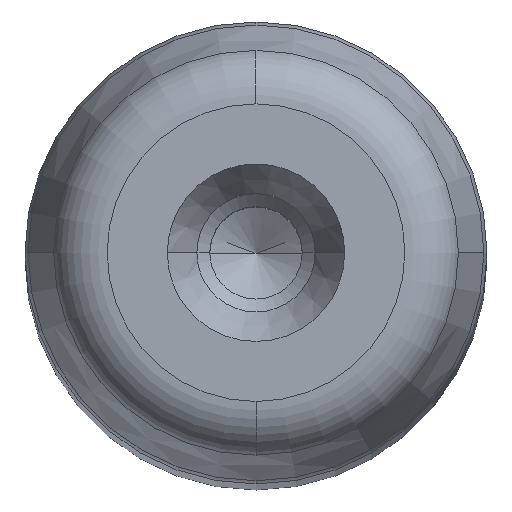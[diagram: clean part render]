
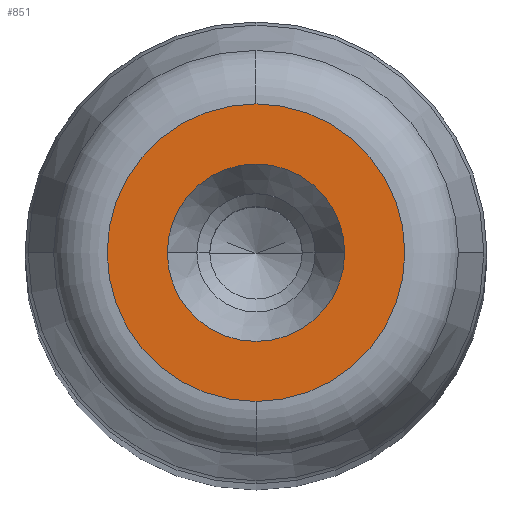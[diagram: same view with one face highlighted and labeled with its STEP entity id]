
A CAD part, top view. The second image highlights one B-rep face of the part: STEP entity #851.
In plain terms, the highlighted planar face has unit normal (0, 0, 1) as drawn and (0, 1, 0) by its records, which use the part's own axes.
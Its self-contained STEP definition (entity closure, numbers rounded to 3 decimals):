
#281=CARTESIAN_POINT('',(4.8,200.0,0.0));
#282=VERTEX_POINT('',#281);
#289=CARTESIAN_POINT('',(-4.8,200.0,0.));
#290=VERTEX_POINT('',#289);
#291=CARTESIAN_POINT('',(0.0,200.0,0.0));
#292=DIRECTION('',(0.0,1.0,0.0));
#293=DIRECTION('',(1.0,0.0,0.0));
#294=AXIS2_PLACEMENT_3D('',#291,#292,#293);
#295=CIRCLE('',#294,4.8);
#296=EDGE_CURVE('',#282,#290,#295,.T.);
#313=CARTESIAN_POINT('',(0.0,200.,8.054));
#314=VERTEX_POINT('',#313);
#324=CARTESIAN_POINT('',(0.,200.,-8.054));
#325=VERTEX_POINT('',#324);
#326=CARTESIAN_POINT('',(0.0,200.,0.0));
#327=DIRECTION('',(0.0,1.0,0.0));
#328=DIRECTION('',(1.0,0.0,0.0));
#329=AXIS2_PLACEMENT_3D('',#326,#327,#328);
#330=CIRCLE('',#329,8.054);
#331=EDGE_CURVE('',#325,#314,#330,.T.);
#812=CARTESIAN_POINT('',(8.054,200.,0.0));
#813=VERTEX_POINT('',#812);
#814=CARTESIAN_POINT('',(0.0,200.,0.0));
#815=DIRECTION('',(0.0,1.0,0.0));
#816=DIRECTION('',(1.0,0.0,0.0));
#817=AXIS2_PLACEMENT_3D('',#814,#815,#816);
#818=CIRCLE('',#817,8.054);
#819=EDGE_CURVE('',#813,#325,#818,.T.);
#821=CARTESIAN_POINT('',(0.0,200.,0.0));
#822=DIRECTION('',(0.0,1.0,0.0));
#823=DIRECTION('',(1.0,0.0,0.0));
#824=AXIS2_PLACEMENT_3D('',#821,#822,#823);
#825=CIRCLE('',#824,8.054);
#826=EDGE_CURVE('',#314,#813,#825,.T.);
#831=CARTESIAN_POINT('',(-8.86,200.0,-8.86));
#832=DIRECTION('',(0.0,1.0,0.0));
#833=DIRECTION('',(0.0,0.0,1.0));
#834=AXIS2_PLACEMENT_3D('',#831,#832,#833);
#835=PLANE('',#834);
#836=ORIENTED_EDGE('',*,*,#819,.T.);
#837=ORIENTED_EDGE('',*,*,#331,.T.);
#838=ORIENTED_EDGE('',*,*,#826,.T.);
#839=EDGE_LOOP('',(#836,#837,#838));
#840=FACE_OUTER_BOUND('',#839,.T.);
#841=ORIENTED_EDGE('',*,*,#296,.F.);
#842=CARTESIAN_POINT('',(0.0,200.0,0.0));
#843=DIRECTION('',(0.0,1.0,0.0));
#844=DIRECTION('',(1.0,0.0,0.0));
#845=AXIS2_PLACEMENT_3D('',#842,#843,#844);
#846=CIRCLE('',#845,4.8);
#847=EDGE_CURVE('',#290,#282,#846,.T.);
#848=ORIENTED_EDGE('',*,*,#847,.F.);
#849=EDGE_LOOP('',(#841,#848));
#850=FACE_BOUND('',#849,.T.);
#851=ADVANCED_FACE('',(#840,#850),#835,.T.);
